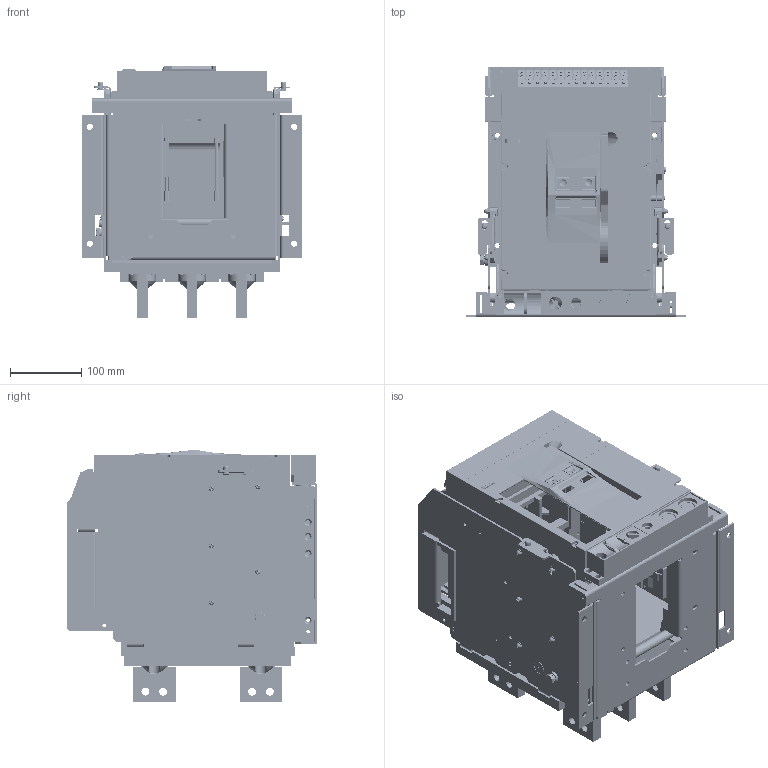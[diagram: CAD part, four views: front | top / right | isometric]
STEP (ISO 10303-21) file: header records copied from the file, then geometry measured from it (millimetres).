
FILE_DESCRIPTION((''),'2;1');
FILE_NAME('NA8G-1600-1250-DO-3P-V_ASM','2019-05-21T14:28:57',('lcc'),(''),'CREO PARAMETRIC BY PTC INC, 2018020','CREO PARAMETRIC BY PTC INC, 2018020','');
FILE_SCHEMA(('CONFIG_CONTROL_DESIGN','SHAPE_APPEARANCE_LAYERS_GROUPS'));
Products named in the file (55): 8-024-504; 8-300-164; 8-141-125; 8-860-349; 8-441-081; 8-200-099; 8-236-064; 5-203-058_ASM; 8-145-063; 8-211-092; 5-024-172_ASM; 8-050-244; 8-960-058; 8-960-056; 8-960-057; 8-960-060; 8-960-059; 8-127-020; 8-125-057; 8-123-120; 8-261-001; 8-125-001; 8-210-176; 5-124-010_ASM; 8-233-301; GBT97_1-4; GBT93-4; GBT818-M4X10; GBT845-ST4_2X9_5C; GBT6170-M8; 5-050-095_ASM; 8-050-243; 8-261-002; 8-125-002; 5-124-011_ASM; GBT97_1-8; GBT93-8; GBT5783-M8X16; 5-050-096_ASM; 8-300-166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
Assembly tree (108 placements, depth 4):
  NA8G-1600-1250-DO-3P-V_ASM
    5-024-172_ASM
      8-024-504
      8-300-164
      8-141-125
      8-860-349
      8-441-081
      5-203-058_ASM
        8-200-099
        8-236-064  x2
      8-145-063  x2
      8-211-092
    5-050-095_ASM
      8-050-244
      8-960-058
      8-960-056
      8-960-057
      8-960-060
      8-960-059
      8-127-020
      8-125-057
      8-123-120
      5-124-010_ASM
        8-261-001
        8-125-001
        8-210-176
      8-233-301
      GBT97_1-4  x5
      GBT93-4  x5
      GBT818-M4X10  x5
      GBT845-ST4_2X9_5C
      GBT6170-M8  x2
    5-050-096_ASM
      8-050-243
      8-125-057
      8-123-120
      5-124-011_ASM
        8-261-002
        8-125-002
        8-210-176
      GBT6170-M8  x2
      GBT97_1-4  x5
      GBT93-4  x5
      GBT818-M4X10  x5
      GBT97_1-8  x2
      GBT93-8
      GBT5783-M8X16
    8-300-166
    8-015-021
    8ZTD-043-780
    8ZTD-043-781
    8-300-162-2
    8-253-348
    8-253-349
    8-253-309
    5-235-147
    1600-DIJIA-3P
    1600-DUANZI-CTS_ASM
      8ZTD-064-138
      8ZTD-024-689  x14
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Bounding box: 308 x 351 x 355 mm (x, y, z)
Volume: 6819480.8 mm3; surface area: 1918220.3 mm2
Topology: 101 solids, 147 shells, 7114 faces, 19476 edges, 12812 vertices
Faces by surface type: plane 5206, cylinder 1645, cone 102, bspline 74, torus 54, sphere 32, extrusion 1
Entity records: 174655 total; most frequent: CARTESIAN_POINT 26677, ORIENTED_EDGE 24128, DIRECTION 23738, EDGE_CURVE 12075, PRESENTATION_STYLE_ASSIGNMENT 10160, STYLED_ITEM 10120, CURVE_STYLE 9995, VECTOR 9322
